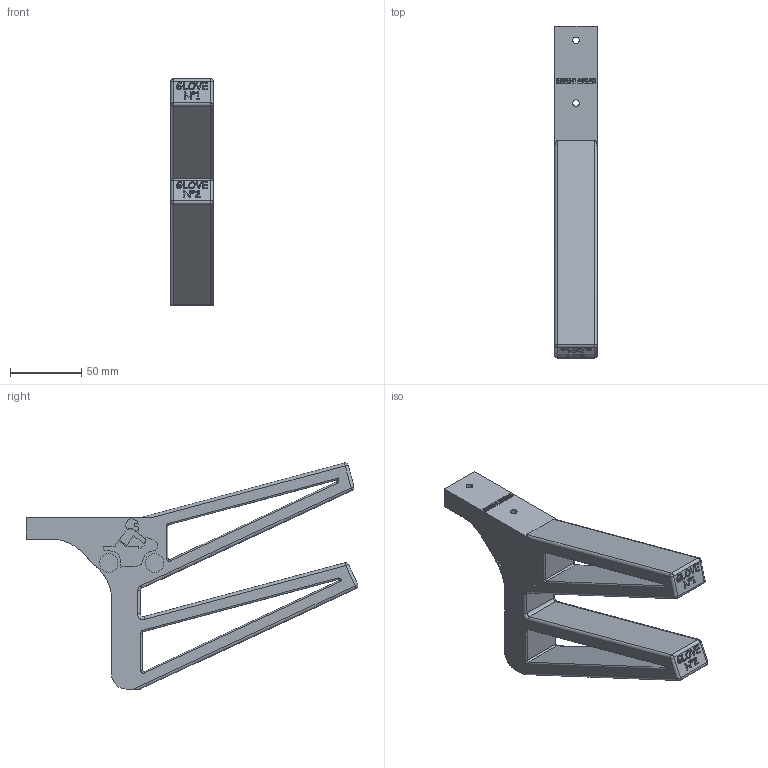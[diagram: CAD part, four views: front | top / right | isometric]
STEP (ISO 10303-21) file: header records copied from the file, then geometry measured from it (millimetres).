
FILE_DESCRIPTION (( 'STEP AP214' ), '1' );
FILE_NAME ('support gant moto V2.STEP', '2025-11-02T16:08:21', ( '' ), ( '' ), 'SwSTEP 2.0', 'SolidWorks 2025', '' );
FILE_SCHEMA (( 'AUTOMOTIVE_DESIGN' ));
Length unit declared in the file: millimetre
Products named in the file (1): support gant moto V2
Bounding box: 30 x 232.37 x 158.37 mm (x, y, z)
Volume: 314618.1 mm3; surface area: 67519.5 mm2
Topology: 1 solids, 1 shells, 1087 faces, 3021 edges, 1987 vertices
Faces by surface type: plane 601, bspline 398, cylinder 54, torus 17, sphere 9, cone 8
Entity records: 48046 total; most frequent: CARTESIAN_POINT 22923, ORIENTED_EDGE 6026, DIRECTION 3700, EDGE_CURVE 3013, VECTOR 2084, LINE 2084, VERTEX_POINT 1985, EDGE_LOOP 1152
